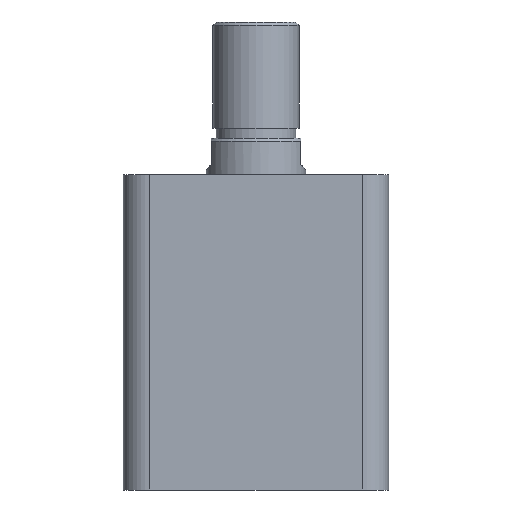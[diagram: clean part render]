
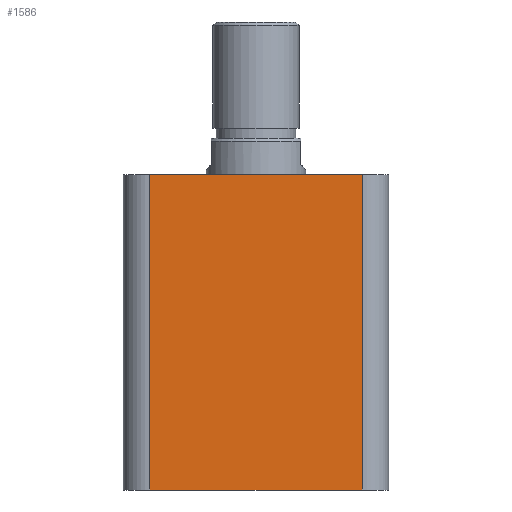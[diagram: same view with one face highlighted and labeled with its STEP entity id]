
A CAD part, front view. The second image highlights one B-rep face of the part: STEP entity #1586.
In plain terms, the highlighted planar face has unit normal (0, -1, 0).
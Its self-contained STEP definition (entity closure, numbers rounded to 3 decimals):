
#35 = EDGE_CURVE ( 'NONE', #1272, #1343, #2483, .T. ) ;
#36 = EDGE_CURVE ( 'NONE', #1272, #1289, #2500, .T. ) ;
#37 = EDGE_CURVE ( 'NONE', #1289, #1285, #2468, .T. ) ;
#38 = EDGE_CURVE ( 'NONE', #1285, #1343, #2494, .T. ) ;
#292 = AXIS2_PLACEMENT_3D ( 'NONE', #2283, #2307, #2262 ) ;
#717 = FACE_OUTER_BOUND ( 'NONE', #2590, .T. ) ;
#1078 = DIRECTION ( 'NONE',  ( 0., 0., 1. ) ) ;
#1079 = CARTESIAN_POINT ( 'NONE',  ( 32., -40., 95. ) ) ;
#1080 = DIRECTION ( 'NONE',  ( 1., 0., 0. ) ) ;
#1081 = DIRECTION ( 'NONE',  ( 0., 0., -1. ) ) ;
#1082 = CARTESIAN_POINT ( 'NONE',  ( -32., -40., 95. ) ) ;
#1083 = DIRECTION ( 'NONE',  ( 1., 0., 0. ) ) ;
#1084 = CARTESIAN_POINT ( 'NONE',  ( -40., -40., 95. ) ) ;
#1104 = CARTESIAN_POINT ( 'NONE',  ( -40., -40., 0. ) ) ;
#1272 = VERTEX_POINT ( 'NONE', #1787 ) ;
#1285 = VERTEX_POINT ( 'NONE', #1744 ) ;
#1289 = VERTEX_POINT ( 'NONE', #1733 ) ;
#1343 = VERTEX_POINT ( 'NONE', #1944 ) ;
#1447 = ORIENTED_EDGE ( 'NONE', *, *, #35, .F. ) ;
#1448 = ORIENTED_EDGE ( 'NONE', *, *, #36, .T. ) ;
#1449 = ORIENTED_EDGE ( 'NONE', *, *, #37, .T. ) ;
#1450 = ORIENTED_EDGE ( 'NONE', *, *, #38, .T. ) ;
#1586 = ADVANCED_FACE ( 'NONE', ( #717 ), #2275, .F. ) ;
#1733 = CARTESIAN_POINT ( 'NONE',  ( -32., -40., 0. ) ) ;
#1744 = CARTESIAN_POINT ( 'NONE',  ( 32., -40., 0. ) ) ;
#1787 = CARTESIAN_POINT ( 'NONE',  ( -32., -40., 95. ) ) ;
#1944 = CARTESIAN_POINT ( 'NONE',  ( 32., -40., 95. ) ) ;
#2262 = DIRECTION ( 'NONE',  ( 0., 0., 1. ) ) ;
#2275 = PLANE ( 'NONE',  #292 ) ;
#2283 = CARTESIAN_POINT ( 'NONE',  ( -40., -40., 95. ) ) ;
#2307 = DIRECTION ( 'NONE',  ( 0., 1., 0. ) ) ;
#2468 = LINE ( 'NONE', #1104, #2495 ) ;
#2483 = LINE ( 'NONE', #1084, #2501 ) ;
#2493 = VECTOR ( 'NONE', #1081, 1000. ) ;
#2494 = LINE ( 'NONE', #1079, #2497 ) ;
#2495 = VECTOR ( 'NONE', #1080, 1000. ) ;
#2497 = VECTOR ( 'NONE', #1078, 1000. ) ;
#2500 = LINE ( 'NONE', #1082, #2493 ) ;
#2501 = VECTOR ( 'NONE', #1083, 1000. ) ;
#2590 = EDGE_LOOP ( 'NONE', ( #1447, #1448, #1449, #1450 ) ) ;
